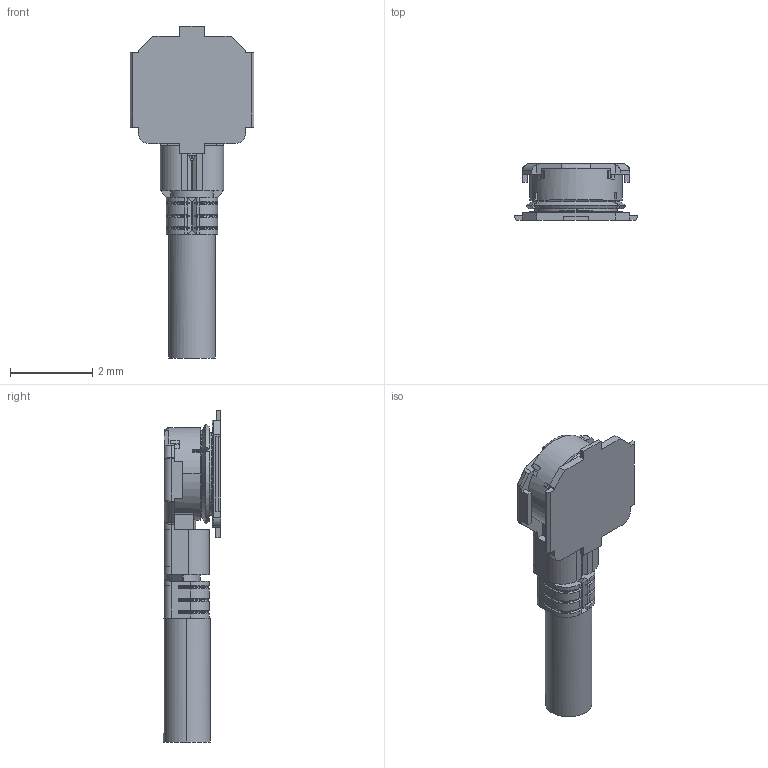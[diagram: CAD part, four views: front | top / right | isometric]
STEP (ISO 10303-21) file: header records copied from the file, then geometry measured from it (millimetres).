
FILE_DESCRIPTION (( 'STEP AP203' ), '1' );
FILE_NAME ('20428+20429C MHF A13 MATING STEP R3R2 ALL.STEP', '2018-12-12T23:29:12', ( '' ), ( '' ), 'SwSTEP 2.0', 'SolidWorks 2017', '' );
FILE_SCHEMA (( 'CONFIG_CONTROL_DESIGN' ));
Length unit declared in the file: millimetre
Products named in the file (1): 20428+20429C MHF A13 MATING STEP R3R2 ALL
Bounding box: 3 x 1.38 x 8.05 mm (x, y, z)
Volume: 12.3 mm3; surface area: 57.3 mm2
Topology: 1 solids, 2 shells, 384 faces, 1012 edges, 636 vertices
Faces by surface type: plane 207, cylinder 93, cone 44, torus 24, bspline 16
Entity records: 12298 total; most frequent: CARTESIAN_POINT 2945, ORIENTED_EDGE 2012, DIRECTION 1862, EDGE_CURVE 1006, VERTEX_POINT 636, VECTOR 628, LINE 628, AXIS2_PLACEMENT_3D 617
